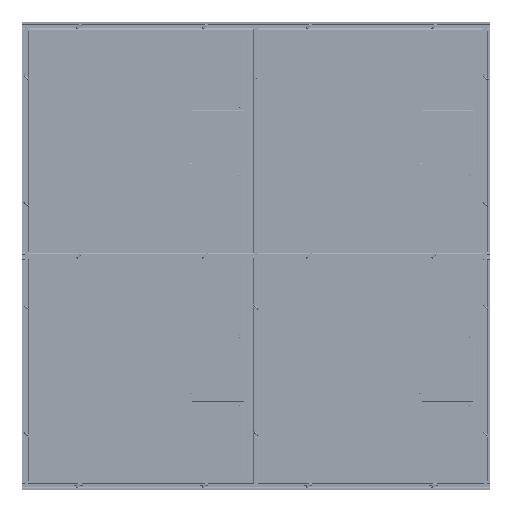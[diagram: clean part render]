
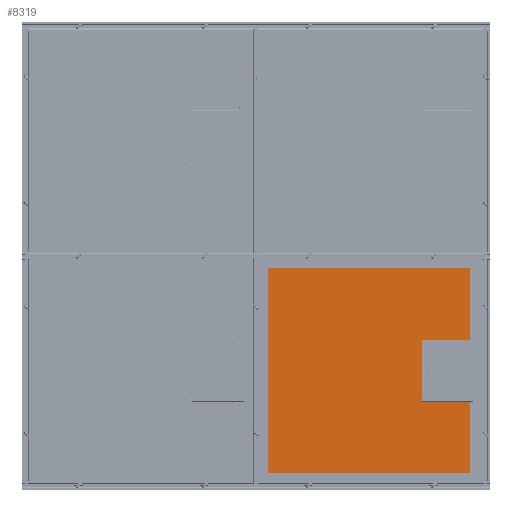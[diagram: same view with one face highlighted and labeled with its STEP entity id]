
A CAD part, top view. The second image highlights one B-rep face of the part: STEP entity #8319.
In plain terms, the highlighted planar face has unit normal (0, 0, 1) as drawn and (0, 0, -1) by its records, which use the part's own axes.
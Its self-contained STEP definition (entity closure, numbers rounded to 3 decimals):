
#8319 = ADVANCED_FACE ( 'NONE', ( #60855 ), #119206, .T. ) ;
#9758 = VECTOR ( 'NONE', #25731, 1000. ) ;
#9992 = LINE ( 'NONE', #136034, #163413 ) ;
#25731 = DIRECTION ( 'NONE',  ( 0., 1., 0. ) ) ;
#26202 = VECTOR ( 'NONE', #69532, 1000. ) ;
#27547 = CARTESIAN_POINT ( 'NONE',  ( -839.414, 1228.12, -150. ) ) ;
#50274 = ORIENTED_EDGE ( 'NONE', *, *, #73900, .T. ) ;
#53559 = LINE ( 'NONE', #27547, #9758 ) ;
#54691 = CARTESIAN_POINT ( 'NONE',  ( 351.186, 1228.12, -150. ) ) ;
#60855 = FACE_OUTER_BOUND ( 'NONE', #171325, .T. ) ;
#66545 = DIRECTION ( 'NONE',  ( 1., 0., 0. ) ) ;
#69532 = DIRECTION ( 'NONE',  ( -1., 0., 0. ) ) ;
#69987 = EDGE_CURVE ( 'NONE', #182650, #77229, #100961, .T. ) ;
#73900 = EDGE_CURVE ( 'NONE', #114778, #182650, #118662, .T. ) ;
#77229 = VERTEX_POINT ( 'NONE', #138873 ) ;
#83044 = ORIENTED_EDGE ( 'NONE', *, *, #179138, .T. ) ;
#89018 = CARTESIAN_POINT ( 'NONE',  ( 351.186, 1228.12, -150. ) ) ;
#89570 = CARTESIAN_POINT ( 'NONE',  ( 0., 0., -150. ) ) ;
#93060 = CARTESIAN_POINT ( 'NONE',  ( -839.414, 1228.12, -150. ) ) ;
#99288 = ORIENTED_EDGE ( 'NONE', *, *, #133336, .T. ) ;
#100051 = CARTESIAN_POINT ( 'NONE',  ( 351.186, 49.52, -150. ) ) ;
#100961 = LINE ( 'NONE', #100051, #26202 ) ;
#102193 = ORIENTED_EDGE ( 'NONE', *, *, #69987, .T. ) ;
#106815 = CARTESIAN_POINT ( 'NONE',  ( 351.186, 49.52, -150. ) ) ;
#107443 = VERTEX_POINT ( 'NONE', #93060 ) ;
#114778 = VERTEX_POINT ( 'NONE', #54691 ) ;
#118662 = LINE ( 'NONE', #89018, #170537 ) ;
#119206 = PLANE ( 'NONE',  #174142 ) ;
#133336 = EDGE_CURVE ( 'NONE', #107443, #114778, #9992, .T. ) ;
#136034 = CARTESIAN_POINT ( 'NONE',  ( 351.186, 1228.12, -150. ) ) ;
#138873 = CARTESIAN_POINT ( 'NONE',  ( -839.414, 49.52, -150. ) ) ;
#157600 = DIRECTION ( 'NONE',  ( 0., -1., 0. ) ) ;
#160913 = DIRECTION ( 'NONE',  ( 0., 0., -1. ) ) ;
#163413 = VECTOR ( 'NONE', #66545, 1000. ) ;
#170537 = VECTOR ( 'NONE', #157600, 1000. ) ;
#171325 = EDGE_LOOP ( 'NONE', ( #50274, #102193, #83044, #99288 ) ) ;
#174142 = AXIS2_PLACEMENT_3D ( 'NONE', #89570, #160913, #175756 ) ;
#175756 = DIRECTION ( 'NONE',  ( -1., 0., 0. ) ) ;
#179138 = EDGE_CURVE ( 'NONE', #77229, #107443, #53559, .T. ) ;
#182650 = VERTEX_POINT ( 'NONE', #106815 ) ;
